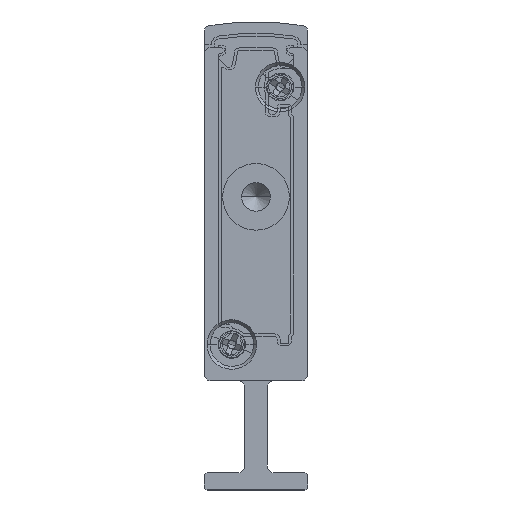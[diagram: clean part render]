
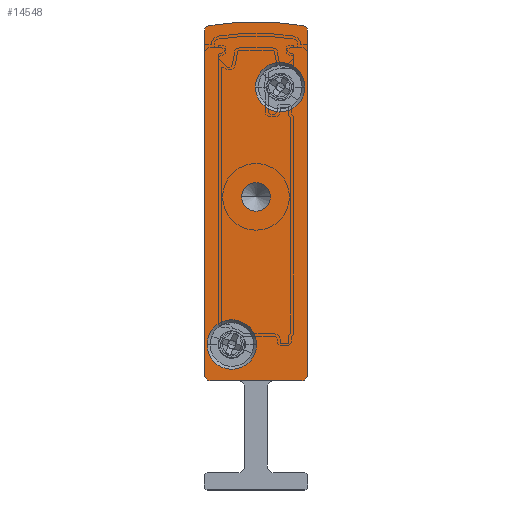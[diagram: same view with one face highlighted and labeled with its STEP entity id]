
A CAD part, front view. The second image highlights one B-rep face of the part: STEP entity #14548.
In plain terms, the highlighted planar face has unit normal (0, -1, 0).
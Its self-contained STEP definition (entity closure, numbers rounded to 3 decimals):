
#472 = CARTESIAN_POINT ( 'NONE',  ( 0.5, -2.5, 39.902 ) ) ;
#513 = CARTESIAN_POINT ( 'NONE',  ( 4.5, -2.5, 25.5 ) ) ;
#759 = DIRECTION ( 'NONE',  ( 1., 0., 0. ) ) ;
#906 = CARTESIAN_POINT ( 'NONE',  ( 8.75, -2.5, 35.05 ) ) ;
#1195 = EDGE_CURVE ( 'NONE', #30982, #8161, #13734, .T. ) ;
#1350 = DIRECTION ( 'NONE',  ( 0., 1., 0. ) ) ;
#1720 = CARTESIAN_POINT ( 'NONE',  ( 8.5, -2.5, 39.902 ) ) ;
#1868 = VERTEX_POINT ( 'NONE', #18585 ) ;
#2938 = FACE_BOUND ( 'NONE', #10257, .T. ) ;
#2954 = CARTESIAN_POINT ( 'NONE',  ( 4.55, -2.5, 12.65 ) ) ;
#3070 = VECTOR ( 'NONE', #30274, 1000. ) ;
#3158 = CARTESIAN_POINT ( 'NONE',  ( 0.5, -2.5, 9.5 ) ) ;
#3621 = DIRECTION ( 'NONE',  ( -1., 0., 0. ) ) ;
#3623 = CARTESIAN_POINT ( 'NONE',  ( 9., -2.5, 10. ) ) ;
#4178 = CARTESIAN_POINT ( 'NONE',  ( 0., -2.5, 39.902 ) ) ;
#4305 = DIRECTION ( 'NONE',  ( 0., 1., 0. ) ) ;
#4344 = AXIS2_PLACEMENT_3D ( 'NONE', #7344, #10062, #9940 ) ;
#4827 = DIRECTION ( 'NONE',  ( 0., 1., 0. ) ) ;
#5201 = AXIS2_PLACEMENT_3D ( 'NONE', #28633, #16132, #759 ) ;
#5251 = EDGE_CURVE ( 'NONE', #8161, #30982, #20956, .T. ) ;
#5291 = DIRECTION ( 'NONE',  ( 0., -1., 0. ) ) ;
#5662 = LINE ( 'NONE', #12927, #16870 ) ;
#5790 = EDGE_CURVE ( 'NONE', #1868, #16228, #30191, .T. ) ;
#6258 = CIRCLE ( 'NONE', #5201, 2.15 ) ;
#6395 = AXIS2_PLACEMENT_3D ( 'NONE', #513, #25779, #15552 ) ;
#6401 = CARTESIAN_POINT ( 'NONE',  ( 0.5, -2.5, 39.902 ) ) ;
#6632 = VECTOR ( 'NONE', #24802, 1000. ) ;
#6814 = ORIENTED_EDGE ( 'NONE', *, *, #19451, .F. ) ;
#7106 = LINE ( 'NONE', #32821, #3070 ) ;
#7344 = CARTESIAN_POINT ( 'NONE',  ( 2.4, -2.5, 12.65 ) ) ;
#7862 = DIRECTION ( 'NONE',  ( 0., 0., -1. ) ) ;
#8161 = VERTEX_POINT ( 'NONE', #29202 ) ;
#8394 = DIRECTION ( 'NONE',  ( 0., 1., 0. ) ) ;
#9213 = CARTESIAN_POINT ( 'NONE',  ( 0., -2.5, 10. ) ) ;
#9601 = EDGE_CURVE ( 'NONE', #16228, #13087, #28960, .T. ) ;
#9879 = CARTESIAN_POINT ( 'NONE',  ( 0.5, -2.5, 10. ) ) ;
#9940 = DIRECTION ( 'NONE',  ( 1., 0., 0. ) ) ;
#10017 = CARTESIAN_POINT ( 'NONE',  ( 5.75, -2.5, 25.5 ) ) ;
#10062 = DIRECTION ( 'NONE',  ( 0., -1., 0. ) ) ;
#10257 = EDGE_LOOP ( 'NONE', ( #26830, #14803 ) ) ;
#10741 = EDGE_LOOP ( 'NONE', ( #23982, #14771, #30963, #19916, #6814, #15973, #22853, #29822 ) ) ;
#10758 = ORIENTED_EDGE ( 'NONE', *, *, #29142, .F. ) ;
#10948 = DIRECTION ( 'NONE',  ( 0., 1., 0. ) ) ;
#11972 = VERTEX_POINT ( 'NONE', #906 ) ;
#12206 = FACE_BOUND ( 'NONE', #32218, .T. ) ;
#12927 = CARTESIAN_POINT ( 'NONE',  ( 9., -2.5, 39.902 ) ) ;
#12976 = CARTESIAN_POINT ( 'NONE',  ( 8.5, -2.5, 9.5 ) ) ;
#13087 = VERTEX_POINT ( 'NONE', #30689 ) ;
#13734 = CIRCLE ( 'NONE', #28381, 1.25 ) ;
#13902 = AXIS2_PLACEMENT_3D ( 'NONE', #26684, #8394, #16112 ) ;
#14175 = FACE_BOUND ( 'NONE', #24639, .T. ) ;
#14548 = ADVANCED_FACE ( 'NONE', ( #2938, #12206, #20586, #14175 ), #21501, .F. ) ;
#14771 = ORIENTED_EDGE ( 'NONE', *, *, #26356, .F. ) ;
#14803 = ORIENTED_EDGE ( 'NONE', *, *, #26573, .F. ) ;
#15552 = DIRECTION ( 'NONE',  ( -1., 0., 0. ) ) ;
#15870 = AXIS2_PLACEMENT_3D ( 'NONE', #1720, #4305, #17334 ) ;
#15902 = CIRCLE ( 'NONE', #27326, 0.5 ) ;
#15973 = ORIENTED_EDGE ( 'NONE', *, *, #31960, .F. ) ;
#16038 = CIRCLE ( 'NONE', #29878, 2.15 ) ;
#16112 = DIRECTION ( 'NONE',  ( -1., 0., 0. ) ) ;
#16132 = DIRECTION ( 'NONE',  ( 0., -1., 0. ) ) ;
#16228 = VERTEX_POINT ( 'NONE', #29037 ) ;
#16586 = DIRECTION ( 'NONE',  ( -1., 0., 0. ) ) ;
#16587 = ORIENTED_EDGE ( 'NONE', *, *, #22315, .F. ) ;
#16818 = VERTEX_POINT ( 'NONE', #3158 ) ;
#16870 = VECTOR ( 'NONE', #7862, 1000. ) ;
#17006 = CIRCLE ( 'NONE', #22261, 0.5 ) ;
#17043 = LINE ( 'NONE', #4178, #6632 ) ;
#17334 = DIRECTION ( 'NONE',  ( -1., 0., 0. ) ) ;
#17559 = VERTEX_POINT ( 'NONE', #22898 ) ;
#18573 = AXIS2_PLACEMENT_3D ( 'NONE', #30872, #5291, #20618 ) ;
#18585 = CARTESIAN_POINT ( 'NONE',  ( 0., -2.5, 39.902 ) ) ;
#18691 = VERTEX_POINT ( 'NONE', #30066 ) ;
#18764 = VERTEX_POINT ( 'NONE', #25091 ) ;
#19119 = DIRECTION ( 'NONE',  ( -1., 0., 0. ) ) ;
#19451 = EDGE_CURVE ( 'NONE', #24810, #21122, #17006, .T. ) ;
#19604 = DIRECTION ( 'NONE',  ( 1., 0., 0. ) ) ;
#19916 = ORIENTED_EDGE ( 'NONE', *, *, #25832, .F. ) ;
#20458 = EDGE_CURVE ( 'NONE', #13087, #18691, #29710, .T. ) ;
#20586 = FACE_OUTER_BOUND ( 'NONE', #10741, .T. ) ;
#20618 = DIRECTION ( 'NONE',  ( 1., 0., 0. ) ) ;
#20956 = CIRCLE ( 'NONE', #6395, 1.25 ) ;
#21122 = VERTEX_POINT ( 'NONE', #12976 ) ;
#21326 = EDGE_CURVE ( 'NONE', #16818, #26912, #15902, .T. ) ;
#21501 = PLANE ( 'NONE',  #31828 ) ;
#22261 = AXIS2_PLACEMENT_3D ( 'NONE', #23555, #1350, #3621 ) ;
#22315 = EDGE_CURVE ( 'NONE', #17559, #28529, #28330, .T. ) ;
#22727 = DIRECTION ( 'NONE',  ( -1., 0., 0. ) ) ;
#22853 = ORIENTED_EDGE ( 'NONE', *, *, #20458, .F. ) ;
#22898 = CARTESIAN_POINT ( 'NONE',  ( 0.25, -2.5, 12.65 ) ) ;
#23555 = CARTESIAN_POINT ( 'NONE',  ( 8.5, -2.5, 10. ) ) ;
#23580 = ORIENTED_EDGE ( 'NONE', *, *, #5251, .T. ) ;
#23698 = EDGE_CURVE ( 'NONE', #11972, #18764, #16038, .T. ) ;
#23863 = DIRECTION ( 'NONE',  ( 0., 1., 0. ) ) ;
#23982 = ORIENTED_EDGE ( 'NONE', *, *, #5790, .F. ) ;
#24639 = EDGE_LOOP ( 'NONE', ( #23580, #29409 ) ) ;
#24802 = DIRECTION ( 'NONE',  ( 0., 0., 1. ) ) ;
#24810 = VERTEX_POINT ( 'NONE', #3623 ) ;
#25091 = CARTESIAN_POINT ( 'NONE',  ( 4.45, -2.5, 35.05 ) ) ;
#25779 = DIRECTION ( 'NONE',  ( 0., 1., 0. ) ) ;
#25832 = EDGE_CURVE ( 'NONE', #21122, #16818, #7106, .T. ) ;
#26356 = EDGE_CURVE ( 'NONE', #26912, #1868, #17043, .T. ) ;
#26573 = EDGE_CURVE ( 'NONE', #18764, #11972, #32285, .T. ) ;
#26684 = CARTESIAN_POINT ( 'NONE',  ( 4.5, -2.5, 17.092 ) ) ;
#26830 = ORIENTED_EDGE ( 'NONE', *, *, #23698, .F. ) ;
#26912 = VERTEX_POINT ( 'NONE', #9213 ) ;
#27065 = DIRECTION ( 'NONE',  ( 0., 1., 0. ) ) ;
#27326 = AXIS2_PLACEMENT_3D ( 'NONE', #9879, #4827, #22727 ) ;
#27515 = CARTESIAN_POINT ( 'NONE',  ( 6.6, -2.5, 35.05 ) ) ;
#27608 = DIRECTION ( 'NONE',  ( 0., -1., 0. ) ) ;
#28330 = CIRCLE ( 'NONE', #4344, 2.15 ) ;
#28381 = AXIS2_PLACEMENT_3D ( 'NONE', #29397, #23863, #19119 ) ;
#28529 = VERTEX_POINT ( 'NONE', #2954 ) ;
#28633 = CARTESIAN_POINT ( 'NONE',  ( 2.4, -2.5, 12.65 ) ) ;
#28960 = CIRCLE ( 'NONE', #13902, 23.658 ) ;
#29018 = DIRECTION ( 'NONE',  ( -1., 0., 0. ) ) ;
#29037 = CARTESIAN_POINT ( 'NONE',  ( 0.408, -2.5, 40.393 ) ) ;
#29142 = EDGE_CURVE ( 'NONE', #28529, #17559, #6258, .T. ) ;
#29202 = CARTESIAN_POINT ( 'NONE',  ( 3.25, -2.5, 25.5 ) ) ;
#29397 = CARTESIAN_POINT ( 'NONE',  ( 4.5, -2.5, 25.5 ) ) ;
#29409 = ORIENTED_EDGE ( 'NONE', *, *, #1195, .T. ) ;
#29710 = CIRCLE ( 'NONE', #15870, 0.5 ) ;
#29822 = ORIENTED_EDGE ( 'NONE', *, *, #9601, .F. ) ;
#29878 = AXIS2_PLACEMENT_3D ( 'NONE', #27515, #27608, #19604 ) ;
#30066 = CARTESIAN_POINT ( 'NONE',  ( 9., -2.5, 39.902 ) ) ;
#30191 = CIRCLE ( 'NONE', #31978, 0.5 ) ;
#30274 = DIRECTION ( 'NONE',  ( -1., 0., 0. ) ) ;
#30689 = CARTESIAN_POINT ( 'NONE',  ( 8.592, -2.5, 40.393 ) ) ;
#30872 = CARTESIAN_POINT ( 'NONE',  ( 6.6, -2.5, 35.05 ) ) ;
#30963 = ORIENTED_EDGE ( 'NONE', *, *, #21326, .F. ) ;
#30982 = VERTEX_POINT ( 'NONE', #10017 ) ;
#31828 = AXIS2_PLACEMENT_3D ( 'NONE', #6401, #27065, #16586 ) ;
#31960 = EDGE_CURVE ( 'NONE', #18691, #24810, #5662, .T. ) ;
#31978 = AXIS2_PLACEMENT_3D ( 'NONE', #472, #10948, #29018 ) ;
#32218 = EDGE_LOOP ( 'NONE', ( #10758, #16587 ) ) ;
#32285 = CIRCLE ( 'NONE', #18573, 2.15 ) ;
#32821 = CARTESIAN_POINT ( 'NONE',  ( 0.5, -2.5, 9.5 ) ) ;
